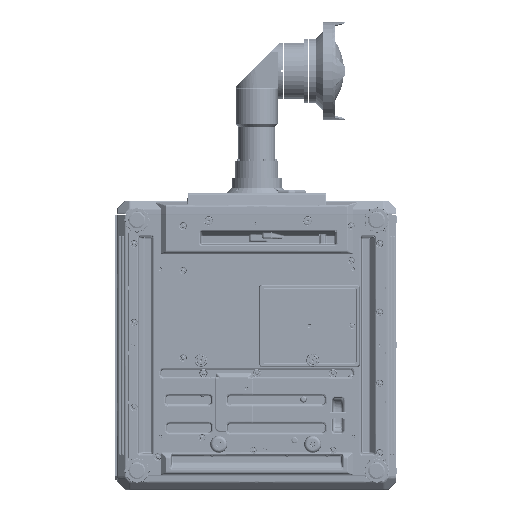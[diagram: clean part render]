
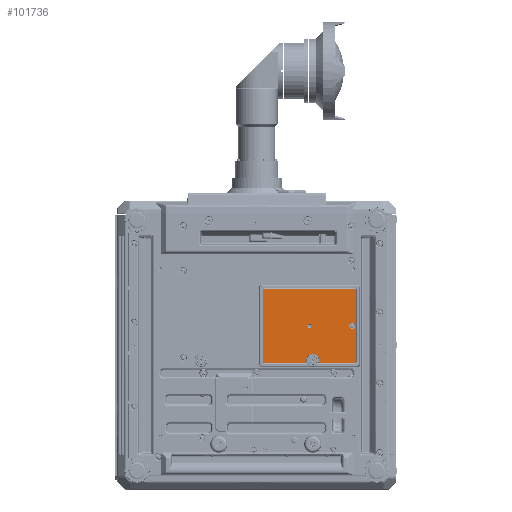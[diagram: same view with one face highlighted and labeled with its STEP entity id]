
A CAD part, front view. The second image highlights one B-rep face of the part: STEP entity #101736.
In plain terms, the highlighted planar face has unit normal (0, -1, 0).
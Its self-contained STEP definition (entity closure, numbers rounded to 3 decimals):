
#17819=ELLIPSE('',#344383,1.504,1.5);
#17820=ELLIPSE('',#344384,1.504,1.5);
#17821=ELLIPSE('',#344386,1.504,1.5);
#17822=ELLIPSE('',#344387,1.504,1.5);
#23616=B_SPLINE_CURVE_WITH_KNOTS('',3,(#546193,#546194,#546195,#546196,
#546197,#546198,#546199,#546200,#546201,#546202,#546203,#546204,#546205,
#546206,#546207,#546208,#546209,#546210,#546211),.UNSPECIFIED.,.F.,.F.,
(4,3,3,3,3,3,4),(0.,0.054,0.243,0.432,
0.621,0.811,1.),.UNSPECIFIED.);
#23617=B_SPLINE_CURVE_WITH_KNOTS('',3,(#546215,#546216,#546217,#546218,
#546219,#546220,#546221,#546222,#546223,#546224,#546225,#546226,#546227,
#546228,#546229,#546230,#546231,#546232,#546233),.UNSPECIFIED.,.F.,.F.,
(4,3,3,3,3,3,4),(0.,0.054,0.243,0.432,
0.621,0.811,1.),.UNSPECIFIED.);
#26078=FACE_BOUND('',#126803,.T.);
#26079=FACE_BOUND('',#126804,.T.);
#26080=FACE_BOUND('',#126805,.T.);
#101736=ADVANCED_FACE('',(#26078,#26079,#26080),#106798,.F.);
#106798=PLANE('',#344388);
#126803=EDGE_LOOP('',(#188410));
#126804=EDGE_LOOP('',(#188411));
#126805=EDGE_LOOP('',(#188412,#188413,#188414,#188415,#188416,#188417,#188418,
#188419,#188420,#188421,#188422,#188423));
#135500=CIRCLE('',#344380,4.);
#135501=CIRCLE('',#344382,6.125);
#135502=CIRCLE('',#344385,13.358);
#188410=ORIENTED_EDGE('',*,*,#271397,.T.);
#188411=ORIENTED_EDGE('',*,*,#271398,.T.);
#188412=ORIENTED_EDGE('',*,*,#271399,.T.);
#188413=ORIENTED_EDGE('',*,*,#271400,.T.);
#188414=ORIENTED_EDGE('',*,*,#271401,.T.);
#188415=ORIENTED_EDGE('',*,*,#271402,.T.);
#188416=ORIENTED_EDGE('',*,*,#271403,.T.);
#188417=ORIENTED_EDGE('',*,*,#271404,.T.);
#188418=ORIENTED_EDGE('',*,*,#271405,.T.);
#188419=ORIENTED_EDGE('',*,*,#271406,.T.);
#188420=ORIENTED_EDGE('',*,*,#271407,.T.);
#188421=ORIENTED_EDGE('',*,*,#271408,.T.);
#188422=ORIENTED_EDGE('',*,*,#271409,.T.);
#188423=ORIENTED_EDGE('',*,*,#271410,.T.);
#226652=VERTEX_POINT('',#546178);
#226653=VERTEX_POINT('',#546181);
#226654=VERTEX_POINT('',#546183);
#226655=VERTEX_POINT('',#546184);
#226656=VERTEX_POINT('',#546186);
#226657=VERTEX_POINT('',#546188);
#226658=VERTEX_POINT('',#546190);
#226659=VERTEX_POINT('',#546192);
#226660=VERTEX_POINT('',#546212);
#226661=VERTEX_POINT('',#546214);
#226662=VERTEX_POINT('',#546234);
#226663=VERTEX_POINT('',#546236);
#226664=VERTEX_POINT('',#546238);
#226665=VERTEX_POINT('',#546240);
#271397=EDGE_CURVE('',#226652,#226652,#135500,.T.);
#271398=EDGE_CURVE('',#226653,#226653,#135501,.T.);
#271399=EDGE_CURVE('',#226654,#226655,#297107,.T.);
#271400=EDGE_CURVE('',#226655,#226656,#17819,.T.);
#271401=EDGE_CURVE('',#226656,#226657,#297108,.T.);
#271402=EDGE_CURVE('',#226657,#226658,#17820,.T.);
#271403=EDGE_CURVE('',#226658,#226659,#297109,.T.);
#271404=EDGE_CURVE('',#226659,#226660,#23616,.T.);
#271405=EDGE_CURVE('',#226660,#226661,#135502,.T.);
#271406=EDGE_CURVE('',#226661,#226662,#23617,.T.);
#271407=EDGE_CURVE('',#226662,#226663,#297110,.T.);
#271408=EDGE_CURVE('',#226663,#226664,#17821,.T.);
#271409=EDGE_CURVE('',#226664,#226665,#297111,.T.);
#271410=EDGE_CURVE('',#226665,#226654,#17822,.T.);
#297107=LINE('',#546182,#321532);
#297108=LINE('',#546187,#321533);
#297109=LINE('',#546191,#321534);
#297110=LINE('',#546235,#321535);
#297111=LINE('',#546239,#321536);
#321532=VECTOR('',#414086,1.);
#321533=VECTOR('',#414089,1.);
#321534=VECTOR('',#414092,1.);
#321535=VECTOR('',#414095,1.);
#321536=VECTOR('',#414098,1.);
#344380=AXIS2_PLACEMENT_3D('',#546177,#414080,#414081);
#344382=AXIS2_PLACEMENT_3D('',#546180,#414084,#414085);
#344383=AXIS2_PLACEMENT_3D('',#546185,#414087,#414088);
#344384=AXIS2_PLACEMENT_3D('',#546189,#414090,#414091);
#344385=AXIS2_PLACEMENT_3D('',#546213,#414093,#414094);
#344386=AXIS2_PLACEMENT_3D('',#546237,#414096,#414097);
#344387=AXIS2_PLACEMENT_3D('',#546241,#414099,#414100);
#344388=AXIS2_PLACEMENT_3D('',#546242,#414101,#414102);
#414080=DIRECTION('',(0.,1.,0.));
#414081=DIRECTION('',(0.,0.,1.));
#414084=DIRECTION('',(0.,1.,0.));
#414085=DIRECTION('',(0.,0.,1.));
#414086=DIRECTION('',(-1.,0.,0.));
#414087=DIRECTION('',(0.,-1.,0.));
#414088=DIRECTION('',(0.707,0.,-0.707));
#414089=DIRECTION('',(0.,0.,-1.));
#414090=DIRECTION('',(0.,-1.,0.));
#414091=DIRECTION('',(-0.707,0.,-0.707));
#414092=DIRECTION('',(1.,0.,0.));
#414093=DIRECTION('',(0.,1.,0.));
#414094=DIRECTION('',(0.,0.,1.));
#414095=DIRECTION('',(1.,0.,0.));
#414096=DIRECTION('',(0.,-1.,0.));
#414097=DIRECTION('',(-0.707,0.,0.707));
#414098=DIRECTION('',(0.,0.,1.));
#414099=DIRECTION('',(0.,-1.,0.));
#414100=DIRECTION('',(-0.707,0.,-0.707));
#414101=DIRECTION('',(0.,1.,0.));
#414102=DIRECTION('',(0.,0.,1.));
#546177=CARTESIAN_POINT('',(103.8,-116.5,-1.5));
#546178=CARTESIAN_POINT('',(103.8,-116.5,2.5));
#546180=CARTESIAN_POINT('',(187.8,-116.5,-1.5));
#546181=CARTESIAN_POINT('',(187.8,-116.5,4.625));
#546182=CARTESIAN_POINT('',(110.,-116.5,71.642));
#546183=CARTESIAN_POINT('',(193.644,-116.5,71.642));
#546184=CARTESIAN_POINT('',(14.356,-116.5,71.642));
#546185=CARTESIAN_POINT('',(14.36,-116.5,70.14));
#546186=CARTESIAN_POINT('',(12.858,-116.5,70.144));
#546187=CARTESIAN_POINT('',(12.858,-116.5,-70.));
#546188=CARTESIAN_POINT('',(12.858,-116.5,-73.144));
#546189=CARTESIAN_POINT('',(14.36,-116.5,-73.14));
#546190=CARTESIAN_POINT('',(14.356,-116.5,-74.642));
#546191=CARTESIAN_POINT('',(110.,-116.5,-74.642));
#546192=CARTESIAN_POINT('',(95.481,-116.5,-74.642));
#546193=CARTESIAN_POINT('',(95.481,-116.5,-74.642));
#546194=CARTESIAN_POINT('',(95.529,-116.5,-74.642));
#546195=CARTESIAN_POINT('',(95.578,-116.5,-74.64));
#546196=CARTESIAN_POINT('',(95.627,-116.5,-74.635));
#546197=CARTESIAN_POINT('',(95.794,-116.5,-74.619));
#546198=CARTESIAN_POINT('',(95.96,-116.5,-74.574));
#546199=CARTESIAN_POINT('',(96.112,-116.5,-74.503));
#546200=CARTESIAN_POINT('',(96.264,-116.5,-74.433));
#546201=CARTESIAN_POINT('',(96.405,-116.5,-74.335));
#546202=CARTESIAN_POINT('',(96.525,-116.5,-74.219));
#546203=CARTESIAN_POINT('',(96.645,-116.5,-74.102));
#546204=CARTESIAN_POINT('',(96.747,-116.5,-73.963));
#546205=CARTESIAN_POINT('',(96.822,-116.5,-73.813));
#546206=CARTESIAN_POINT('',(96.897,-116.5,-73.662));
#546207=CARTESIAN_POINT('',(96.947,-116.5,-73.497));
#546208=CARTESIAN_POINT('',(96.967,-116.5,-73.33));
#546209=CARTESIAN_POINT('',(96.988,-116.5,-73.164));
#546210=CARTESIAN_POINT('',(96.98,-116.5,-72.991));
#546211=CARTESIAN_POINT('',(96.945,-116.5,-72.827));
#546212=CARTESIAN_POINT('',(96.945,-116.5,-72.827));
#546213=CARTESIAN_POINT('',(110.,-116.5,-70.));
#546214=CARTESIAN_POINT('',(123.055,-116.5,-72.827));
#546215=CARTESIAN_POINT('',(123.055,-116.5,-72.827));
#546216=CARTESIAN_POINT('',(123.045,-116.5,-72.875));
#546217=CARTESIAN_POINT('',(123.037,-116.5,-72.923));
#546218=CARTESIAN_POINT('',(123.031,-116.5,-72.972));
#546219=CARTESIAN_POINT('',(123.012,-116.5,-73.138));
#546220=CARTESIAN_POINT('',(123.021,-116.5,-73.31));
#546221=CARTESIAN_POINT('',(123.058,-116.5,-73.473));
#546222=CARTESIAN_POINT('',(123.094,-116.5,-73.637));
#546223=CARTESIAN_POINT('',(123.159,-116.5,-73.796));
#546224=CARTESIAN_POINT('',(123.248,-116.5,-73.938));
#546225=CARTESIAN_POINT('',(123.337,-116.5,-74.08));
#546226=CARTESIAN_POINT('',(123.451,-116.5,-74.209));
#546227=CARTESIAN_POINT('',(123.582,-116.5,-74.313));
#546228=CARTESIAN_POINT('',(123.713,-116.5,-74.418));
#546229=CARTESIAN_POINT('',(123.864,-116.5,-74.502));
#546230=CARTESIAN_POINT('',(124.023,-116.5,-74.558));
#546231=CARTESIAN_POINT('',(124.181,-116.5,-74.613));
#546232=CARTESIAN_POINT('',(124.351,-116.5,-74.642));
#546233=CARTESIAN_POINT('',(124.519,-116.5,-74.642));
#546234=CARTESIAN_POINT('',(124.519,-116.5,-74.642));
#546235=CARTESIAN_POINT('',(110.,-116.5,-74.642));
#546236=CARTESIAN_POINT('',(193.644,-116.5,-74.642));
#546237=CARTESIAN_POINT('',(193.64,-116.5,-73.14));
#546238=CARTESIAN_POINT('',(195.142,-116.5,-73.144));
#546239=CARTESIAN_POINT('',(195.142,-116.5,-70.));
#546240=CARTESIAN_POINT('',(195.142,-116.5,70.144));
#546241=CARTESIAN_POINT('',(193.64,-116.5,70.14));
#546242=CARTESIAN_POINT('',(110.,-116.5,-70.));
